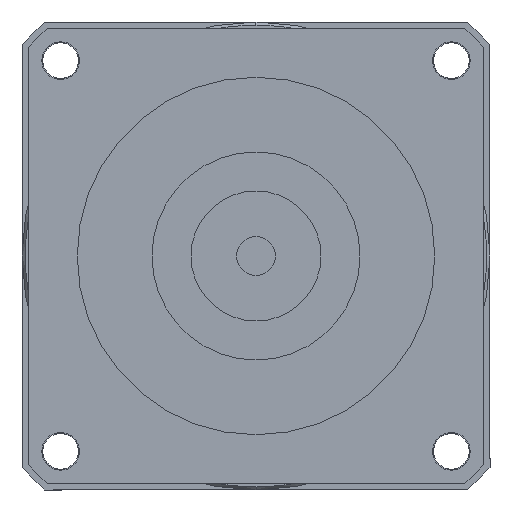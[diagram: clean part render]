
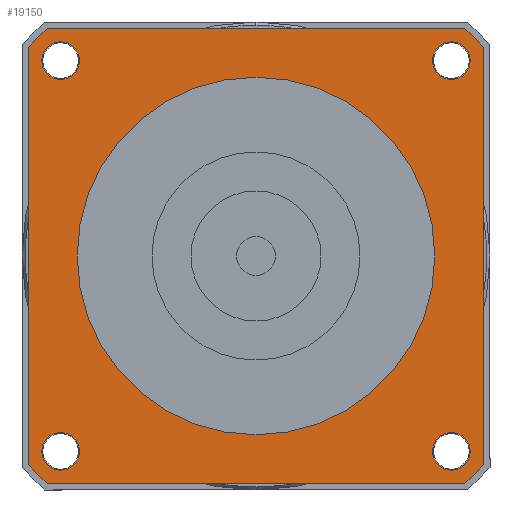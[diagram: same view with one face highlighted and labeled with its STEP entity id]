
A CAD part, left-side view. The second image highlights one B-rep face of the part: STEP entity #19150.
In plain terms, the highlighted planar face has unit normal (-1, 0, 0) as drawn and (0, 0, -1) by its records, which use the part's own axes.
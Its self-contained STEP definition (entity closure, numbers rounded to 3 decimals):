
#15250=CARTESIAN_POINT('',(32.113,-35.,-93.));
#15260=VERTEX_POINT('',#15250);
#15420=CARTESIAN_POINT('',(35.,-32.113,-93.));
#15430=VERTEX_POINT('',#15420);
#15460=CARTESIAN_POINT('',(0.,0.,
-93.));
#15470=DIRECTION('',(0.,0.,1.));
#15480=DIRECTION('',(0.,-1.,0.));
#15490=AXIS2_PLACEMENT_3D('',#15460,#15470,#15480);
#15500=CIRCLE('',#15490,47.5);
#15510=EDGE_CURVE('',#15260,#15430,#15500,.T.);
#15670=CARTESIAN_POINT('',(-32.113,35.,-93.));
#15680=VERTEX_POINT('',#15670);
#15840=CARTESIAN_POINT('',(-35.,32.113,-93.));
#15850=VERTEX_POINT('',#15840);
#15880=CARTESIAN_POINT('',(0.,0.,
-93.));
#15890=DIRECTION('',(0.,0.,1.));
#15900=DIRECTION('',(0.,-1.,0.));
#15910=AXIS2_PLACEMENT_3D('',#15880,#15890,#15900);
#15920=CIRCLE('',#15910,47.5);
#15930=EDGE_CURVE('',#15680,#15850,#15920,.T.);
#17220=CARTESIAN_POINT('',(32.113,35.,-93.));
#17230=VERTEX_POINT('',#17220);
#17360=CARTESIAN_POINT('',(35.,35.,-93.));
#17370=DIRECTION('',(-1.,0.,0.));
#17380=VECTOR('',#17370,1000.);
#17390=LINE('',#17360,#17380);
#17400=EDGE_CURVE('',#17230,#15680,#17390,.T.);
#17660=CARTESIAN_POINT('',(-35.,-32.113,-93.));
#17670=VERTEX_POINT('',#17660);
#17700=CARTESIAN_POINT('',(-35.,35.,-93.));
#17710=DIRECTION('',(0.,-1.,0.));
#17720=VECTOR('',#17710,1000.);
#17730=LINE('',#17700,#17720);
#17740=EDGE_CURVE('',#15850,#17670,#17730,.T.);
#17790=CARTESIAN_POINT('',(-35.,35.,-93.));
#17800=DIRECTION('',(0.,0.,1.));
#17810=DIRECTION('',(-1.,0.,0.));
#17820=AXIS2_PLACEMENT_3D('',#17790,#17800,#17810);
#17830=PLANE('',#17820);
#17840=CARTESIAN_POINT('',(30.052,-30.052,-93.));
#17850=DIRECTION('',(0.,0.,-1.));
#17860=DIRECTION('',(1.,0.,0.));
#17870=AXIS2_PLACEMENT_3D('',#17840,#17850,#17860);
#17880=CIRCLE('',#17870,2.9);
#17890=CARTESIAN_POINT('',(32.952,-30.052,-93.));
#17900=VERTEX_POINT('',#17890);
#17910=CARTESIAN_POINT('',(30.052,-32.952,-93.));
#17920=VERTEX_POINT('',#17910);
#17930=EDGE_CURVE('',#17900,#17920,#17880,.T.);
#17940=ORIENTED_EDGE('',*,*,#17930,.F.);
#17950=CARTESIAN_POINT('',(30.052,-27.152,-93.));
#17960=VERTEX_POINT('',#17950);
#17970=EDGE_CURVE('',#17920,#17960,#17880,.T.);
#17980=ORIENTED_EDGE('',*,*,#17970,.F.);
#17990=EDGE_CURVE('',#17960,#17900,#17880,.T.);
#18000=ORIENTED_EDGE('',*,*,#17990,.F.);
#18010=EDGE_LOOP('',(#18000,#17980,#17940));
#18020=FACE_BOUND('',#18010,.T.);
#18030=CARTESIAN_POINT('',(30.052,30.052,-93.));
#18040=DIRECTION('',(0.,0.,-1.));
#18050=DIRECTION('',(0.,1.,0.));
#18060=AXIS2_PLACEMENT_3D('',#18030,#18040,#18050);
#18070=CIRCLE('',#18060,2.9);
#18080=CARTESIAN_POINT('',(30.052,32.952,-93.));
#18090=VERTEX_POINT('',#18080);
#18100=CARTESIAN_POINT('',(32.952,30.052,-93.));
#18110=VERTEX_POINT('',#18100);
#18120=EDGE_CURVE('',#18090,#18110,#18070,.T.);
#18130=ORIENTED_EDGE('',*,*,#18120,.F.);
#18140=CARTESIAN_POINT('',(27.152,30.052,-93.));
#18150=VERTEX_POINT('',#18140);
#18160=EDGE_CURVE('',#18110,#18150,#18070,.T.);
#18170=ORIENTED_EDGE('',*,*,#18160,.F.);
#18180=EDGE_CURVE('',#18150,#18090,#18070,.T.);
#18190=ORIENTED_EDGE('',*,*,#18180,.F.);
#18200=EDGE_LOOP('',(#18190,#18170,#18130));
#18210=FACE_BOUND('',#18200,.T.);
#18220=CARTESIAN_POINT('',(-30.052,30.052,-93.));
#18230=DIRECTION('',(0.,0.,-1.));
#18240=DIRECTION('',(-1.,0.,0.));
#18250=AXIS2_PLACEMENT_3D('',#18220,#18230,#18240);
#18260=CIRCLE('',#18250,2.9);
#18270=CARTESIAN_POINT('',(-32.952,30.052,-93.));
#18280=VERTEX_POINT('',#18270);
#18290=CARTESIAN_POINT('',(-30.052,32.952,-93.));
#18300=VERTEX_POINT('',#18290);
#18310=EDGE_CURVE('',#18280,#18300,#18260,.T.);
#18320=ORIENTED_EDGE('',*,*,#18310,.F.);
#18330=CARTESIAN_POINT('',(-30.052,27.152,-93.));
#18340=VERTEX_POINT('',#18330);
#18350=EDGE_CURVE('',#18300,#18340,#18260,.T.);
#18360=ORIENTED_EDGE('',*,*,#18350,.F.);
#18370=EDGE_CURVE('',#18340,#18280,#18260,.T.);
#18380=ORIENTED_EDGE('',*,*,#18370,.F.);
#18390=EDGE_LOOP('',(#18380,#18360,#18320));
#18400=FACE_BOUND('',#18390,.T.);
#18410=CARTESIAN_POINT('',(-30.052,-30.052,-93.));
#18420=DIRECTION('',(0.,0.,-1.));
#18430=DIRECTION('',(0.,-1.,0.));
#18440=AXIS2_PLACEMENT_3D('',#18410,#18420,#18430);
#18450=CIRCLE('',#18440,2.9);
#18460=CARTESIAN_POINT('',(-30.052,-32.952,-93.));
#18470=VERTEX_POINT('',#18460);
#18480=CARTESIAN_POINT('',(-32.952,-30.052,-93.));
#18490=VERTEX_POINT('',#18480);
#18500=EDGE_CURVE('',#18470,#18490,#18450,.T.);
#18510=ORIENTED_EDGE('',*,*,#18500,.F.);
#18520=CARTESIAN_POINT('',(-27.152,-30.052,-93.));
#18530=VERTEX_POINT('',#18520);
#18540=EDGE_CURVE('',#18490,#18530,#18450,.T.);
#18550=ORIENTED_EDGE('',*,*,#18540,.F.);
#18560=EDGE_CURVE('',#18530,#18470,#18450,.T.);
#18570=ORIENTED_EDGE('',*,*,#18560,.F.);
#18580=EDGE_LOOP('',(#18570,#18550,#18510));
#18590=FACE_BOUND('',#18580,.T.);
#18600=CARTESIAN_POINT('',(0.,0.,
-93.));
#18610=DIRECTION('',(0.,0.,1.));
#18620=DIRECTION('',(0.,-1.,0.));
#18630=AXIS2_PLACEMENT_3D('',#18600,#18610,#18620);
#18640=CIRCLE('',#18630,47.5);
#18650=CARTESIAN_POINT('',(-32.113,-35.,-93.));
#18660=VERTEX_POINT('',#18650);
#18670=EDGE_CURVE('',#17670,#18660,#18640,.T.);
#18680=ORIENTED_EDGE('',*,*,#18670,.F.);
#18690=CARTESIAN_POINT('',(-35.,-35.,-93.));
#18700=DIRECTION('',(1.,0.,0.));
#18710=VECTOR('',#18700,1000.);
#18720=LINE('',#18690,#18710);
#18730=EDGE_CURVE('',#18660,#15260,#18720,.T.);
#18740=ORIENTED_EDGE('',*,*,#18730,.F.);
#18750=ORIENTED_EDGE('',*,*,#15510,.F.);
#18760=CARTESIAN_POINT('',(35.,-35.,-93.));
#18770=DIRECTION('',(0.,1.,0.));
#18780=VECTOR('',#18770,1000.);
#18790=LINE('',#18760,#18780);
#18800=CARTESIAN_POINT('',(35.,32.113,-93.));
#18810=VERTEX_POINT('',#18800);
#18820=EDGE_CURVE('',#15430,#18810,#18790,.T.);
#18830=ORIENTED_EDGE('',*,*,#18820,.F.);
#18840=CARTESIAN_POINT('',(0.,0.,
-93.));
#18850=DIRECTION('',(0.,0.,1.));
#18860=DIRECTION('',(0.,-1.,0.));
#18870=AXIS2_PLACEMENT_3D('',#18840,#18850,#18860);
#18880=CIRCLE('',#18870,47.5);
#18890=EDGE_CURVE('',#18810,#17230,#18880,.T.);
#18900=ORIENTED_EDGE('',*,*,#18890,.F.);
#18910=ORIENTED_EDGE('',*,*,#17400,.F.);
#18920=ORIENTED_EDGE('',*,*,#15930,.F.);
#18930=ORIENTED_EDGE('',*,*,#17740,.F.);
#18940=EDGE_LOOP('',(#18930,#18920,#18910,#18900,#18830,#18750,#18740,
#18680));
#18950=FACE_OUTER_BOUND('',#18940,.T.);
#18960=CARTESIAN_POINT('',(0.,0.,
-93.));
#18970=DIRECTION('',(0.,0.,1.));
#18980=DIRECTION('',(0.,-1.,0.));
#18990=AXIS2_PLACEMENT_3D('',#18960,#18970,#18980);
#19000=CIRCLE('',#18990,27.5);
#19010=CARTESIAN_POINT('',(27.5,0.,-93.));
#19020=VERTEX_POINT('',#19010);
#19030=CARTESIAN_POINT('',(-27.5,0.,-93.));
#19040=VERTEX_POINT('',#19030);
#19050=EDGE_CURVE('',#19020,#19040,#19000,.T.);
#19060=ORIENTED_EDGE('',*,*,#19050,.T.);
#19070=CARTESIAN_POINT('',(0.,-27.5,-93.));
#19080=VERTEX_POINT('',#19070);
#19090=EDGE_CURVE('',#19080,#19020,#19000,.T.);
#19100=ORIENTED_EDGE('',*,*,#19090,.T.);
#19110=EDGE_CURVE('',#19040,#19080,#19000,.T.);
#19120=ORIENTED_EDGE('',*,*,#19110,.T.);
#19130=EDGE_LOOP('',(#19120,#19100,#19060));
#19140=FACE_BOUND('',#19130,.T.);
#19150=ADVANCED_FACE('',(#18020,#18210,#18400,#18590,#18950,#19140),
#17830,.F.);
